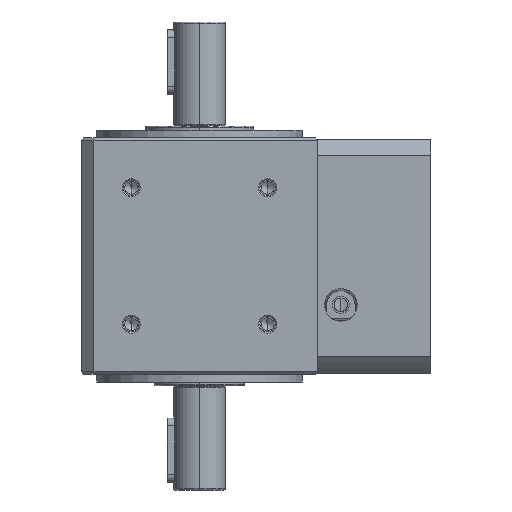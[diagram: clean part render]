
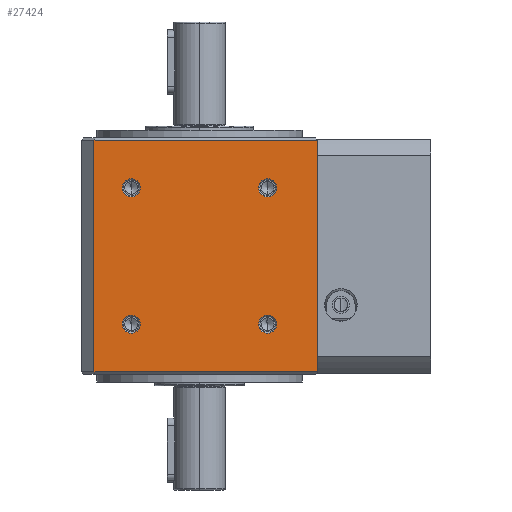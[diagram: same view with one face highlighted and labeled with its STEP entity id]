
A CAD part, front view. The second image highlights one B-rep face of the part: STEP entity #27424.
In plain terms, the highlighted planar face has unit normal (0, -1, 0).
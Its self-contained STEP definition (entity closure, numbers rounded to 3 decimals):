
#5396 = DIRECTION ( 'NONE',  ( 0., 0., -1. ) ) ;
#5397 = DIRECTION ( 'NONE',  ( 0., -1., 0. ) ) ;
#5398 = CARTESIAN_POINT ( 'NONE',  ( -26.517, -46., 75.517 ) ) ;
#5399 = AXIS2_PLACEMENT_3D ( 'NONE', #5398, #5397, #5396 ) ;
#5400 = CIRCLE ( 'NONE', #5399, 3.5 ) ;
#5402 = CARTESIAN_POINT ( 'NONE',  ( -26.517, -46., 79.017 ) ) ;
#5530 = CARTESIAN_POINT ( 'NONE',  ( 26.517, -46., 79.017 ) ) ;
#5535 = DIRECTION ( 'NONE',  ( 0., 0., -1. ) ) ;
#5536 = DIRECTION ( 'NONE',  ( 0., -1., 0. ) ) ;
#5537 = CARTESIAN_POINT ( 'NONE',  ( 26.517, -46., 75.517 ) ) ;
#5538 = AXIS2_PLACEMENT_3D ( 'NONE', #5537, #5536, #5535 ) ;
#5542 = CIRCLE ( 'NONE', #5538, 3.5 ) ;
#5553 = CARTESIAN_POINT ( 'NONE',  ( 26.517, -46., 72.017 ) ) ;
#5698 = CARTESIAN_POINT ( 'NONE',  ( -26.517, -46., 18.983 ) ) ;
#5699 = DIRECTION ( 'NONE',  ( 0., 0., -1. ) ) ;
#5700 = DIRECTION ( 'NONE',  ( 0., -1., 0. ) ) ;
#5701 = CARTESIAN_POINT ( 'NONE',  ( -26.517, -46., 22.483 ) ) ;
#5702 = AXIS2_PLACEMENT_3D ( 'NONE', #5701, #5700, #5699 ) ;
#5703 = CIRCLE ( 'NONE', #5702, 3.5 ) ;
#5704 = CARTESIAN_POINT ( 'NONE',  ( -26.517, -46., 25.983 ) ) ;
#5791 = CARTESIAN_POINT ( 'NONE',  ( 26.517, -46., 25.983 ) ) ;
#5800 = CARTESIAN_POINT ( 'NONE',  ( 26.517, -46., 18.983 ) ) ;
#5905 = DIRECTION ( 'NONE',  ( 0., 0., -1. ) ) ;
#5906 = DIRECTION ( 'NONE',  ( 0., -1., 0. ) ) ;
#5907 = CARTESIAN_POINT ( 'NONE',  ( 26.517, -46., 22.483 ) ) ;
#5908 = AXIS2_PLACEMENT_3D ( 'NONE', #5907, #5906, #5905 ) ;
#5909 = CIRCLE ( 'NONE', #5908, 3.5 ) ;
#6041 = CARTESIAN_POINT ( 'NONE',  ( -26.517, -46., 72.017 ) ) ;
#18731 = VERTEX_POINT ( 'NONE', #5402 ) ;
#18733 = EDGE_CURVE ( 'NONE', #18731, #19076, #5400, .T. ) ;
#18788 = EDGE_CURVE ( 'NONE', #18790, #18823, #5542, .T. ) ;
#18790 = VERTEX_POINT ( 'NONE', #5530 ) ;
#18823 = VERTEX_POINT ( 'NONE', #5553 ) ;
#18861 = VERTEX_POINT ( 'NONE', #5704 ) ;
#18863 = EDGE_CURVE ( 'NONE', #18861, #18864, #5703, .T. ) ;
#18864 = VERTEX_POINT ( 'NONE', #5698 ) ;
#18891 = EDGE_CURVE ( 'NONE', #18900, #18892, #5909, .T. ) ;
#18892 = VERTEX_POINT ( 'NONE', #5800 ) ;
#18900 = VERTEX_POINT ( 'NONE', #5791 ) ;
#19076 = VERTEX_POINT ( 'NONE', #6041 ) ;
#21530 = DIRECTION ( 'NONE',  ( 0., 0., -1. ) ) ;
#21531 = DIRECTION ( 'NONE',  ( 0., -1., 0. ) ) ;
#21532 = CARTESIAN_POINT ( 'NONE',  ( 26.517, -46., 22.483 ) ) ;
#21533 = AXIS2_PLACEMENT_3D ( 'NONE', #21532, #21531, #21530 ) ;
#21538 = CIRCLE ( 'NONE', #21533, 3.5 ) ;
#21588 = CARTESIAN_POINT ( 'NONE',  ( 46.001, -46., 94. ) ) ;
#21590 = DIRECTION ( 'NONE',  ( 0., 0., -1. ) ) ;
#21591 = VECTOR ( 'NONE', #21590, 1000. ) ;
#21593 = CARTESIAN_POINT ( 'NONE',  ( 46.001, -46., 95. ) ) ;
#21594 = LINE ( 'NONE', #21593, #21591 ) ;
#21721 = AXIS2_PLACEMENT_3D ( 'NONE', #21722, #21792, #21791 ) ;
#21722 = CARTESIAN_POINT ( 'NONE',  ( -46., -46., 98. ) ) ;
#21723 = PLANE ( 'NONE',  #21721 ) ;
#21724 = FACE_OUTER_BOUND ( 'NONE', #27559, .T. ) ;
#21725 = FACE_BOUND ( 'NONE', #27615, .T. ) ;
#21726 = FACE_BOUND ( 'NONE', #27113, .T. ) ;
#21727 = FACE_BOUND ( 'NONE', #27104, .T. ) ;
#21738 = DIRECTION ( 'NONE',  ( 1., 0., 0. ) ) ;
#21739 = VECTOR ( 'NONE', #21738, 1000. ) ;
#21740 = CARTESIAN_POINT ( 'NONE',  ( 46.001, -46., 4. ) ) ;
#21741 = LINE ( 'NONE', #21740, #21739 ) ;
#21742 = DIRECTION ( 'NONE',  ( -1., 0., 0. ) ) ;
#21743 = VECTOR ( 'NONE', #21742, 1000. ) ;
#21744 = CARTESIAN_POINT ( 'NONE',  ( -41., -46., 94. ) ) ;
#21745 = LINE ( 'NONE', #21744, #21743 ) ;
#21772 = CIRCLE ( 'NONE', #21805, 3.5 ) ;
#21791 = DIRECTION ( 'NONE',  ( 0., 0., 1. ) ) ;
#21792 = DIRECTION ( 'NONE',  ( 0., 1., 0. ) ) ;
#21805 = AXIS2_PLACEMENT_3D ( 'NONE', #21849, #21854, #21841 ) ;
#21809 = FACE_BOUND ( 'NONE', #27391, .T. ) ;
#21815 = CARTESIAN_POINT ( 'NONE',  ( -41., -46., 4. ) ) ;
#21816 = CARTESIAN_POINT ( 'NONE',  ( -41., -46., 94. ) ) ;
#21817 = DIRECTION ( 'NONE',  ( 0., 0., -1. ) ) ;
#21818 = VECTOR ( 'NONE', #21817, 1000. ) ;
#21819 = CARTESIAN_POINT ( 'NONE',  ( -41., -46., 98. ) ) ;
#21820 = LINE ( 'NONE', #21819, #21818 ) ;
#21821 = CARTESIAN_POINT ( 'NONE',  ( 46.001, -46., 4. ) ) ;
#21841 = DIRECTION ( 'NONE',  ( 0., 0., -1. ) ) ;
#21849 = CARTESIAN_POINT ( 'NONE',  ( -26.517, -46., 22.483 ) ) ;
#21854 = DIRECTION ( 'NONE',  ( 0., -1., 0. ) ) ;
#21863 = DIRECTION ( 'NONE',  ( 0., 0., -1. ) ) ;
#21864 = DIRECTION ( 'NONE',  ( 0., -1., 0. ) ) ;
#21929 = CARTESIAN_POINT ( 'NONE',  ( 26.517, -46., 75.517 ) ) ;
#21930 = AXIS2_PLACEMENT_3D ( 'NONE', #21929, #21864, #21863 ) ;
#21931 = CIRCLE ( 'NONE', #21930, 3.5 ) ;
#21951 = CIRCLE ( 'NONE', #21998, 3.5 ) ;
#21997 = DIRECTION ( 'NONE',  ( 0., 0., -1. ) ) ;
#21998 = AXIS2_PLACEMENT_3D ( 'NONE', #22015, #22024, #21997 ) ;
#22015 = CARTESIAN_POINT ( 'NONE',  ( -26.517, -46., 75.517 ) ) ;
#22024 = DIRECTION ( 'NONE',  ( 0., -1., 0. ) ) ;
#27104 = EDGE_LOOP ( 'NONE', ( #27105, #27109 ) ) ;
#27105 = ORIENTED_EDGE ( 'NONE', *, *, #27106, .F. ) ;
#27106 = EDGE_CURVE ( 'NONE', #18892, #18900, #21538, .T. ) ;
#27109 = ORIENTED_EDGE ( 'NONE', *, *, #18891, .F. ) ;
#27113 = EDGE_LOOP ( 'NONE', ( #27115, #27610 ) ) ;
#27115 = ORIENTED_EDGE ( 'NONE', *, *, #27607, .F. ) ;
#27163 = EDGE_CURVE ( 'NONE', #18864, #18861, #21772, .T. ) ;
#27165 = ORIENTED_EDGE ( 'NONE', *, *, #18863, .F. ) ;
#27391 = EDGE_LOOP ( 'NONE', ( #27394, #27165 ) ) ;
#27394 = ORIENTED_EDGE ( 'NONE', *, *, #27163, .F. ) ;
#27424 = ADVANCED_FACE ( 'NONE', ( #21809, #21727, #21726, #21725, #21724 ), #21723, .F. ) ;
#27530 = EDGE_CURVE ( 'NONE', #27532, #27542, #21594, .T. ) ;
#27532 = VERTEX_POINT ( 'NONE', #21588 ) ;
#27534 = ORIENTED_EDGE ( 'NONE', *, *, #27535, .T. ) ;
#27535 = EDGE_CURVE ( 'NONE', #27532, #27551, #21745, .T. ) ;
#27539 = EDGE_CURVE ( 'NONE', #27553, #27542, #21741, .T. ) ;
#27542 = VERTEX_POINT ( 'NONE', #21821 ) ;
#27545 = ORIENTED_EDGE ( 'NONE', *, *, #27530, .F. ) ;
#27550 = EDGE_CURVE ( 'NONE', #27551, #27553, #21820, .T. ) ;
#27551 = VERTEX_POINT ( 'NONE', #21816 ) ;
#27553 = VERTEX_POINT ( 'NONE', #21815 ) ;
#27554 = ORIENTED_EDGE ( 'NONE', *, *, #27539, .T. ) ;
#27559 = EDGE_LOOP ( 'NONE', ( #27562, #27554, #27545, #27534 ) ) ;
#27562 = ORIENTED_EDGE ( 'NONE', *, *, #27550, .T. ) ;
#27567 = EDGE_CURVE ( 'NONE', #19076, #18731, #21951, .T. ) ;
#27569 = ORIENTED_EDGE ( 'NONE', *, *, #18733, .F. ) ;
#27607 = EDGE_CURVE ( 'NONE', #18823, #18790, #21931, .T. ) ;
#27610 = ORIENTED_EDGE ( 'NONE', *, *, #18788, .F. ) ;
#27615 = EDGE_LOOP ( 'NONE', ( #27618, #27569 ) ) ;
#27618 = ORIENTED_EDGE ( 'NONE', *, *, #27567, .F. ) ;
